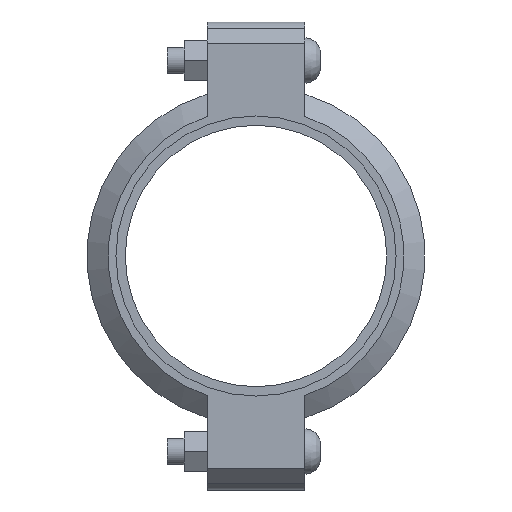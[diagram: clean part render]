
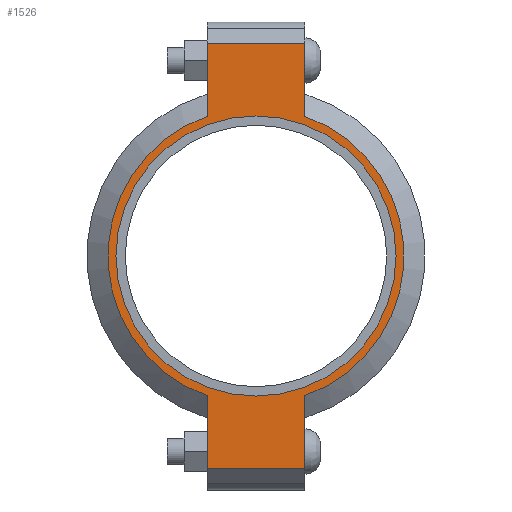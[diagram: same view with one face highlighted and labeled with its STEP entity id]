
A CAD part, left-side view. The second image highlights one B-rep face of the part: STEP entity #1526.
In plain terms, the highlighted planar face has unit normal (-1, 0, 0) as drawn and (0, 0, 1) by its records, which use the part's own axes.
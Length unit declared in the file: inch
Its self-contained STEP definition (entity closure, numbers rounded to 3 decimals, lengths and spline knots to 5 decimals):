
#150=LINE('',#2672,#243);
#158=LINE('',#2708,#251);
#165=LINE('',#2729,#258);
#174=LINE('',#2761,#267);
#175=LINE('',#2765,#268);
#176=LINE('',#2767,#269);
#243=VECTOR('',#2184,0.3937);
#251=VECTOR('',#2200,0.3937);
#258=VECTOR('',#2219,0.3937);
#267=VECTOR('',#2244,0.3937);
#268=VECTOR('',#2249,0.3937);
#269=VECTOR('',#2250,0.3937);
#325=FACE_BOUND('',#503,.T.);
#397=FACE_OUTER_BOUND('',#502,.T.);
#502=EDGE_LOOP('',(#1267,#1268,#1269,#1270,#1271,#1272,#1273,#1274));
#503=EDGE_LOOP('',(#1275));
#575=CIRCLE('',#1754,3.3125);
#601=CIRCLE('',#1813,3.5);
#602=CIRCLE('',#1814,3.5);
#667=VERTEX_POINT('',#2488);
#710=VERTEX_POINT('',#2669);
#711=VERTEX_POINT('',#2671);
#722=VERTEX_POINT('',#2703);
#723=VERTEX_POINT('',#2707);
#730=VERTEX_POINT('',#2726);
#731=VERTEX_POINT('',#2728);
#741=VERTEX_POINT('',#2764);
#742=VERTEX_POINT('',#2766);
#823=EDGE_CURVE('',#667,#667,#575,.T.);
#884=EDGE_CURVE('',#711,#710,#150,.T.);
#898=EDGE_CURVE('',#723,#722,#158,.T.);
#908=EDGE_CURVE('',#731,#730,#165,.T.);
#923=EDGE_CURVE('',#723,#710,#174,.T.);
#924=EDGE_CURVE('',#722,#731,#601,.T.);
#925=EDGE_CURVE('',#741,#730,#175,.T.);
#926=EDGE_CURVE('',#741,#742,#176,.T.);
#927=EDGE_CURVE('',#742,#711,#602,.T.);
#1267=ORIENTED_EDGE('',*,*,#923,.F.);
#1268=ORIENTED_EDGE('',*,*,#898,.T.);
#1269=ORIENTED_EDGE('',*,*,#924,.T.);
#1270=ORIENTED_EDGE('',*,*,#908,.T.);
#1271=ORIENTED_EDGE('',*,*,#925,.F.);
#1272=ORIENTED_EDGE('',*,*,#926,.T.);
#1273=ORIENTED_EDGE('',*,*,#927,.T.);
#1274=ORIENTED_EDGE('',*,*,#884,.T.);
#1275=ORIENTED_EDGE('',*,*,#823,.T.);
#1368=PLANE('',#1812);
#1526=ADVANCED_FACE('',(#397,#325),#1368,.T.);
#1754=AXIS2_PLACEMENT_3D('',#2490,#2060,#2061);
#1812=AXIS2_PLACEMENT_3D('',#2762,#2245,#2246);
#1813=AXIS2_PLACEMENT_3D('',#2763,#2247,#2248);
#1814=AXIS2_PLACEMENT_3D('',#2768,#2251,#2252);
#2060=DIRECTION('center_axis',(0.,0.,-1.));
#2061=DIRECTION('ref_axis',(1.,0.,0.));
#2184=DIRECTION('',(1.,0.,0.));
#2200=DIRECTION('',(-1.,0.,0.));
#2219=DIRECTION('',(-1.,0.,0.));
#2244=DIRECTION('',(0.,-1.,0.));
#2245=DIRECTION('center_axis',(0.,0.,1.));
#2246=DIRECTION('ref_axis',(-1.,0.,0.));
#2247=DIRECTION('center_axis',(0.,0.,1.));
#2248=DIRECTION('ref_axis',(1.,0.,0.));
#2249=DIRECTION('',(0.,1.,0.));
#2250=DIRECTION('',(1.,0.,0.));
#2251=DIRECTION('center_axis',(0.,0.,1.));
#2252=DIRECTION('ref_axis',(1.,0.,0.));
#2488=CARTESIAN_POINT('',(-3.3125,0.,1.065));
#2490=CARTESIAN_POINT('Origin',(0.,0.,1.065));
#2669=CARTESIAN_POINT('',(5.035,-1.156,1.065));
#2671=CARTESIAN_POINT('',(3.30358,-1.156,1.065));
#2672=CARTESIAN_POINT('',(5.535,-1.156,1.065));
#2703=CARTESIAN_POINT('',(3.30358,1.156,1.065));
#2707=CARTESIAN_POINT('',(5.035,1.156,1.065));
#2708=CARTESIAN_POINT('',(-5.535,1.156,1.065));
#2726=CARTESIAN_POINT('',(-5.035,1.156,1.065));
#2728=CARTESIAN_POINT('',(-3.30358,1.156,1.065));
#2729=CARTESIAN_POINT('',(-5.535,1.156,1.065));
#2761=CARTESIAN_POINT('',(5.035,-0.578,1.065));
#2762=CARTESIAN_POINT('Origin',(0.,0.,
1.065));
#2763=CARTESIAN_POINT('Origin',(0.,0.,1.065));
#2764=CARTESIAN_POINT('',(-5.035,-1.156,1.065));
#2765=CARTESIAN_POINT('',(-5.035,0.578,1.065));
#2766=CARTESIAN_POINT('',(-3.30358,-1.156,1.065));
#2767=CARTESIAN_POINT('',(5.535,-1.156,1.065));
#2768=CARTESIAN_POINT('Origin',(0.,0.,1.065));
